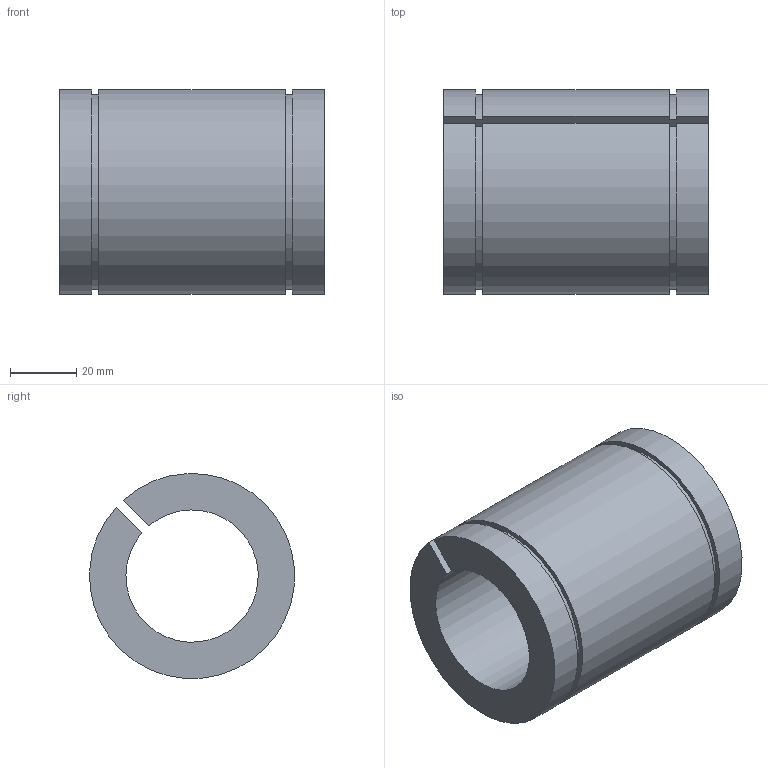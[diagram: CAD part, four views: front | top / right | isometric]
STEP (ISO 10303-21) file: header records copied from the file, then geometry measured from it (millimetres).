
FILE_DESCRIPTION( ( 'STEP AP203' ), '1' );
FILE_NAME( 'p:/temp/worker_106/temp/exporttempdir_4436_757_QAbED/format_0/LME40UU-AJ.stp', '2020-04-29T03:24:11', ( 'License CC BY-ND 4.0' ), ( 'CADENAS' ), ' ', 'PARTsolutions', ' ' );
FILE_SCHEMA( ( 'CONFIG_CONTROL_DESIGN' ) );
Length unit declared in the file: millimetre
Products named in the file (1): _LME40UU-AJ
Bounding box: 80 x 61.88 x 61.88 mm (x, y, z)
Volume: 137146.5 mm3; surface area: 31446.1 mm2
Topology: 1 solids, 1 shells, 14 faces, 36 edges, 24 vertices
Faces by surface type: plane 8, cylinder 6
Entity records: 476 total; most frequent: DIRECTION 78, CARTESIAN_POINT 75, ORIENTED_EDGE 72, EDGE_CURVE 36, AXIS2_PLACEMENT_3D 27, VERTEX_POINT 24, LINE 24, VECTOR 24
